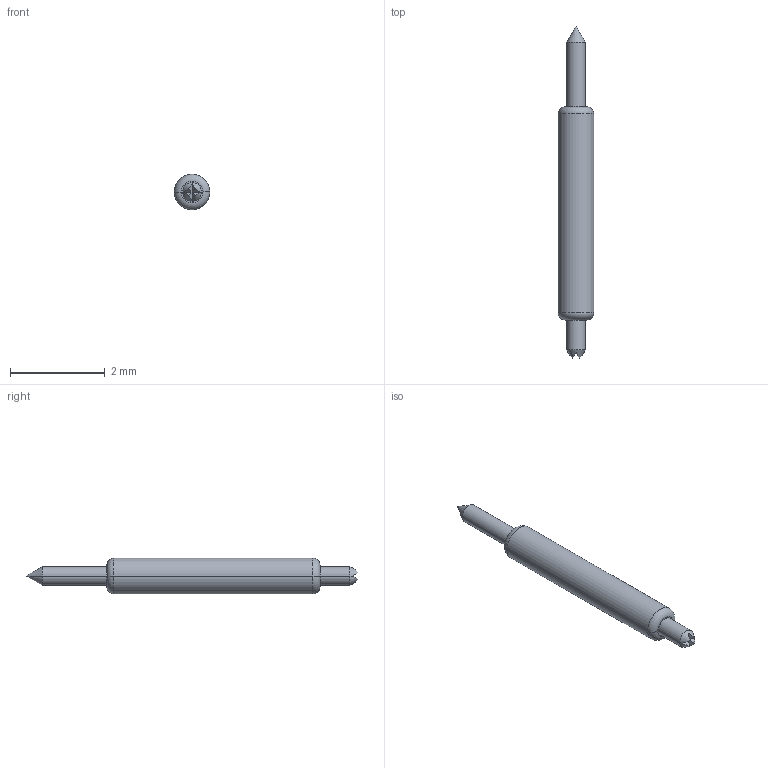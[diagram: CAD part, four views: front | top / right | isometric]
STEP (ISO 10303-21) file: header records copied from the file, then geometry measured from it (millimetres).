
FILE_DESCRIPTION((''),'2;1');
FILE_NAME('JD-SX075-067','2020-11-02T',('lenovo'),(''),'PRO/ENGINEER BY PARAMETRIC TECHNOLOGY CORPORATION, 2008380','PRO/ENGINEER BY PARAMETRIC TECHNOLOGY CORPORATION, 2008380','');
FILE_SCHEMA(('CONFIG_CONTROL_DESIGN'));
Length unit declared in the file: millimetre
Products named in the file (1): JD-SX075-067
Bounding box: 0.75 x 7 x 0.75 mm (x, y, z)
Volume: 2.2 mm3; surface area: 13.9 mm2
Topology: 1 solids, 1 shells, 28 faces, 60 edges, 34 vertices
Faces by surface type: plane 14, cylinder 6, torus 4, cone 4
Entity records: 796 total; most frequent: CARTESIAN_POINT 160, DIRECTION 130, ORIENTED_EDGE 116, EDGE_CURVE 58, AXIS2_PLACEMENT_3D 52, VERTEX_POINT 34, EDGE_LOOP 30, FACE_OUTER_BOUND 28
